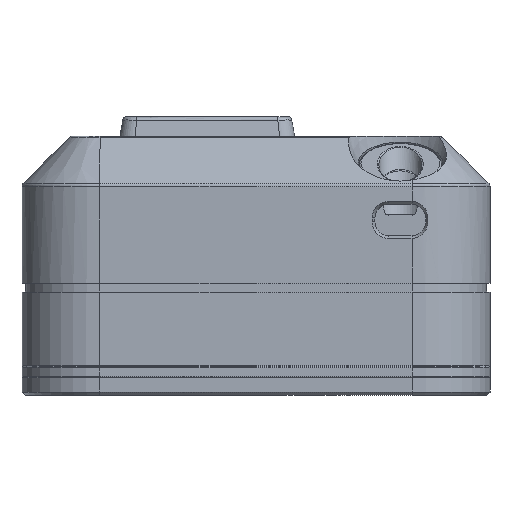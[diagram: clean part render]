
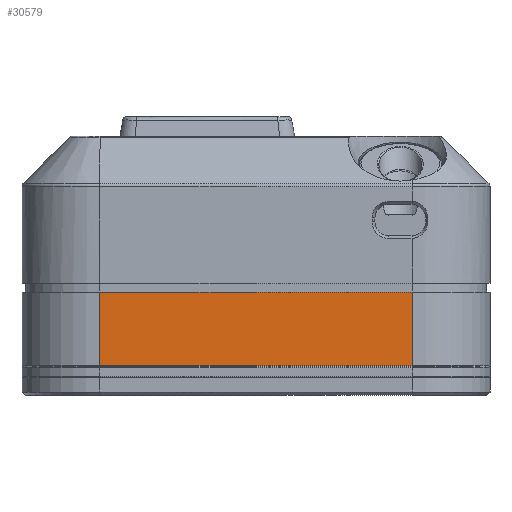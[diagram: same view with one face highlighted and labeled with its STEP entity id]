
A CAD part, left-side view. The second image highlights one B-rep face of the part: STEP entity #30579.
In plain terms, the highlighted planar face has unit normal (-1, 0, 0).
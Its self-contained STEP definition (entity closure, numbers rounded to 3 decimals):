
#8388 = PLANE('',#8389);
#8389 = AXIS2_PLACEMENT_3D('',#8390,#8391,#8392);
#8390 = CARTESIAN_POINT('',(-27.1,-24.1,3.05));
#8391 = DIRECTION('',(0.,0.,1.));
#8392 = DIRECTION('',(1.,0.,0.));
#8991 = VERTEX_POINT('',#8992);
#8992 = CARTESIAN_POINT('',(-27.,16.,3.05));
#9007 = CYLINDRICAL_SURFACE('',#9008,8.);
#9008 = AXIS2_PLACEMENT_3D('',#9009,#9010,#9011);
#9009 = CARTESIAN_POINT('',(-19.,16.,2.4));
#9010 = DIRECTION('',(0.,0.,1.));
#9011 = DIRECTION('',(-1.,-0.,0.));
#9019 = EDGE_CURVE('',#8991,#9020,#9022,.T.);
#9020 = VERTEX_POINT('',#9021);
#9021 = CARTESIAN_POINT('',(-27.,-16.,3.05));
#9022 = SURFACE_CURVE('',#9023,(#9027,#9033),.PCURVE_S1.);
#9023 = LINE('',#9024,#9025);
#9024 = CARTESIAN_POINT('',(-27.,-24.05,3.05));
#9025 = VECTOR('',#9026,1.);
#9026 = DIRECTION('',(0.,-1.,0.));
#9027 = PCURVE('',#8388,#9028);
#9028 = DEFINITIONAL_REPRESENTATION('',(#9029),#9032);
#9029 = B_SPLINE_CURVE_WITH_KNOTS('',1,(#9030,#9031),.UNSPECIFIED.,.F.,
  .F.,(2,2),(-40.05,-8.05),.PIECEWISE_BEZIER_KNOTS.);
#9030 = CARTESIAN_POINT('',(0.1,40.1));
#9031 = CARTESIAN_POINT('',(0.1,8.1));
#9032 = ( GEOMETRIC_REPRESENTATION_CONTEXT(2) 
PARAMETRIC_REPRESENTATION_CONTEXT() REPRESENTATION_CONTEXT('2D SPACE',''
  ) );
#9033 = PCURVE('',#9034,#9039);
#9034 = PLANE('',#9035);
#9035 = AXIS2_PLACEMENT_3D('',#9036,#9037,#9038);
#9036 = CARTESIAN_POINT('',(-27.,-24.,2.4));
#9037 = DIRECTION('',(1.,0.,0.));
#9038 = DIRECTION('',(0.,0.,1.));
#9039 = DEFINITIONAL_REPRESENTATION('',(#9040),#9043);
#9040 = B_SPLINE_CURVE_WITH_KNOTS('',1,(#9041,#9042),.UNSPECIFIED.,.F.,
  .F.,(2,2),(-40.05,-8.05),.PIECEWISE_BEZIER_KNOTS.);
#9041 = CARTESIAN_POINT('',(0.65,-40.));
#9042 = CARTESIAN_POINT('',(0.65,-8.));
#9043 = ( GEOMETRIC_REPRESENTATION_CONTEXT(2) 
PARAMETRIC_REPRESENTATION_CONTEXT() REPRESENTATION_CONTEXT('2D SPACE',''
  ) );
#9062 = CYLINDRICAL_SURFACE('',#9063,8.);
#9063 = AXIS2_PLACEMENT_3D('',#9064,#9065,#9066);
#9064 = CARTESIAN_POINT('',(-19.,-16.,2.4));
#9065 = DIRECTION('',(0.,0.,1.));
#9066 = DIRECTION('',(-1.,-0.,0.));
#9096 = EDGE_CURVE('',#9020,#9097,#9099,.T.);
#9097 = VERTEX_POINT('',#9098);
#9098 = CARTESIAN_POINT('',(-27.,-16.,10.6));
#9099 = SURFACE_CURVE('',#9100,(#9104,#9111),.PCURVE_S1.);
#9100 = LINE('',#9101,#9102);
#9101 = CARTESIAN_POINT('',(-27.,-16.,2.4));
#9102 = VECTOR('',#9103,1.);
#9103 = DIRECTION('',(0.,0.,1.));
#9104 = PCURVE('',#9062,#9105);
#9105 = DEFINITIONAL_REPRESENTATION('',(#9106),#9110);
#9106 = LINE('',#9107,#9108);
#9107 = CARTESIAN_POINT('',(0.,0.));
#9108 = VECTOR('',#9109,1.);
#9109 = DIRECTION('',(0.,1.));
#9110 = ( GEOMETRIC_REPRESENTATION_CONTEXT(2) 
PARAMETRIC_REPRESENTATION_CONTEXT() REPRESENTATION_CONTEXT('2D SPACE',''
  ) );
#9111 = PCURVE('',#9034,#9112);
#9112 = DEFINITIONAL_REPRESENTATION('',(#9113),#9117);
#9113 = LINE('',#9114,#9115);
#9114 = CARTESIAN_POINT('',(0.,-8.));
#9115 = VECTOR('',#9116,1.);
#9116 = DIRECTION('',(1.,0.));
#9117 = ( GEOMETRIC_REPRESENTATION_CONTEXT(2) 
PARAMETRIC_REPRESENTATION_CONTEXT() REPRESENTATION_CONTEXT('2D SPACE',''
  ) );
#9158 = PLANE('',#9159);
#9159 = AXIS2_PLACEMENT_3D('',#9160,#9161,#9162);
#9160 = CARTESIAN_POINT('',(-27.5,-24.5,10.6));
#9161 = DIRECTION('',(0.,0.,1.));
#9162 = DIRECTION('',(1.,0.,0.));
#9173 = EDGE_CURVE('',#9174,#9097,#9176,.T.);
#9174 = VERTEX_POINT('',#9175);
#9175 = CARTESIAN_POINT('',(-27.,16.,10.6));
#9176 = SURFACE_CURVE('',#9177,(#9181,#9187),.PCURVE_S1.);
#9177 = LINE('',#9178,#9179);
#9178 = CARTESIAN_POINT('',(-27.,-24.25,10.6));
#9179 = VECTOR('',#9180,1.);
#9180 = DIRECTION('',(0.,-1.,0.));
#9181 = PCURVE('',#9158,#9182);
#9182 = DEFINITIONAL_REPRESENTATION('',(#9183),#9186);
#9183 = B_SPLINE_CURVE_WITH_KNOTS('',1,(#9184,#9185),.UNSPECIFIED.,.F.,
  .F.,(2,2),(-40.25,-8.25),.PIECEWISE_BEZIER_KNOTS.);
#9184 = CARTESIAN_POINT('',(0.5,40.5));
#9185 = CARTESIAN_POINT('',(0.5,8.5));
#9186 = ( GEOMETRIC_REPRESENTATION_CONTEXT(2) 
PARAMETRIC_REPRESENTATION_CONTEXT() REPRESENTATION_CONTEXT('2D SPACE',''
  ) );
#9187 = PCURVE('',#9034,#9188);
#9188 = DEFINITIONAL_REPRESENTATION('',(#9189),#9192);
#9189 = B_SPLINE_CURVE_WITH_KNOTS('',1,(#9190,#9191),.UNSPECIFIED.,.F.,
  .F.,(2,2),(-40.25,-8.25),.PIECEWISE_BEZIER_KNOTS.);
#9190 = CARTESIAN_POINT('',(8.2,-40.));
#9191 = CARTESIAN_POINT('',(8.2,-8.));
#9192 = ( GEOMETRIC_REPRESENTATION_CONTEXT(2) 
PARAMETRIC_REPRESENTATION_CONTEXT() REPRESENTATION_CONTEXT('2D SPACE',''
  ) );
#30579 = ADVANCED_FACE('',(#30580),#9034,.F.);
#30580 = FACE_BOUND('',#30581,.F.);
#30581 = EDGE_LOOP('',(#30582,#30583,#30584,#30605));
#30582 = ORIENTED_EDGE('',*,*,#9096,.F.);
#30583 = ORIENTED_EDGE('',*,*,#9019,.F.);
#30584 = ORIENTED_EDGE('',*,*,#30585,.T.);
#30585 = EDGE_CURVE('',#8991,#9174,#30586,.T.);
#30586 = SURFACE_CURVE('',#30587,(#30591,#30598),.PCURVE_S1.);
#30587 = LINE('',#30588,#30589);
#30588 = CARTESIAN_POINT('',(-27.,16.,2.4));
#30589 = VECTOR('',#30590,1.);
#30590 = DIRECTION('',(0.,0.,1.));
#30591 = PCURVE('',#9034,#30592);
#30592 = DEFINITIONAL_REPRESENTATION('',(#30593),#30597);
#30593 = LINE('',#30594,#30595);
#30594 = CARTESIAN_POINT('',(0.,-40.));
#30595 = VECTOR('',#30596,1.);
#30596 = DIRECTION('',(1.,0.));
#30597 = ( GEOMETRIC_REPRESENTATION_CONTEXT(2) 
PARAMETRIC_REPRESENTATION_CONTEXT() REPRESENTATION_CONTEXT('2D SPACE',''
  ) );
#30598 = PCURVE('',#9007,#30599);
#30599 = DEFINITIONAL_REPRESENTATION('',(#30600),#30604);
#30600 = LINE('',#30601,#30602);
#30601 = CARTESIAN_POINT('',(-0.,0.));
#30602 = VECTOR('',#30603,1.);
#30603 = DIRECTION('',(-0.,1.));
#30604 = ( GEOMETRIC_REPRESENTATION_CONTEXT(2) 
PARAMETRIC_REPRESENTATION_CONTEXT() REPRESENTATION_CONTEXT('2D SPACE',''
  ) );
#30605 = ORIENTED_EDGE('',*,*,#9173,.T.);
